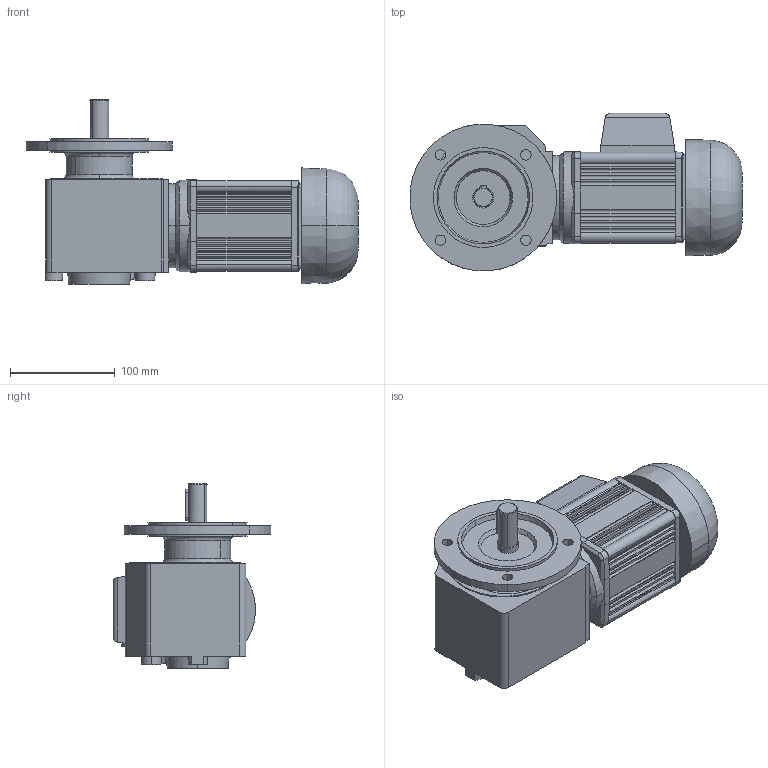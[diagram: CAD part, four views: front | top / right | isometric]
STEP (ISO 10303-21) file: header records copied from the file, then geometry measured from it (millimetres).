
FILE_DESCRIPTION(('OneSpaceDesigner STEP Export'),'2;1');
FILE_NAME('OEG51_ZF45.stp','2009-04-01T15:23:56',(''),(''),'OneSpace Designer STEP processor (Jan. 2003) for AP214(CD)(Solid Model)','OneSpace Designer 12.01D 09-Jul-2004 (C) CoCreate Software GmbH','');
FILE_SCHEMA(('AUTOMOTIVE_DESIGN_CC2 {1 2 10303 214 -1 1 5 1}'));
Length unit declared in the file: millimetre
Products named in the file (3): OEG51_ZF45_F; OEG51_ZF45.stp
Assembly tree (2 placements, depth 3):
  OEG51_ZF45.stp
    OEG51_ZF45_F
      OEG51_ZF45_F
Bounding box: 316.23 x 150.29 x 175.5 mm (x, y, z)
Volume: 2843548.9 mm3; surface area: 208871.3 mm2
Topology: 1 solids, 1 shells, 383 faces, 1020 edges, 643 vertices
Faces by surface type: plane 207, cylinder 126, bspline 28, cone 16, torus 6
Entity records: 19959 total; most frequent: CARTESIAN_POINT 11356, ORIENTED_EDGE 2040, DIRECTION 1489, EDGE_CURVE 1020, VERTEX_POINT 643, VECTOR 579, LINE 579, AXIS2_PLACEMENT_3D 455
